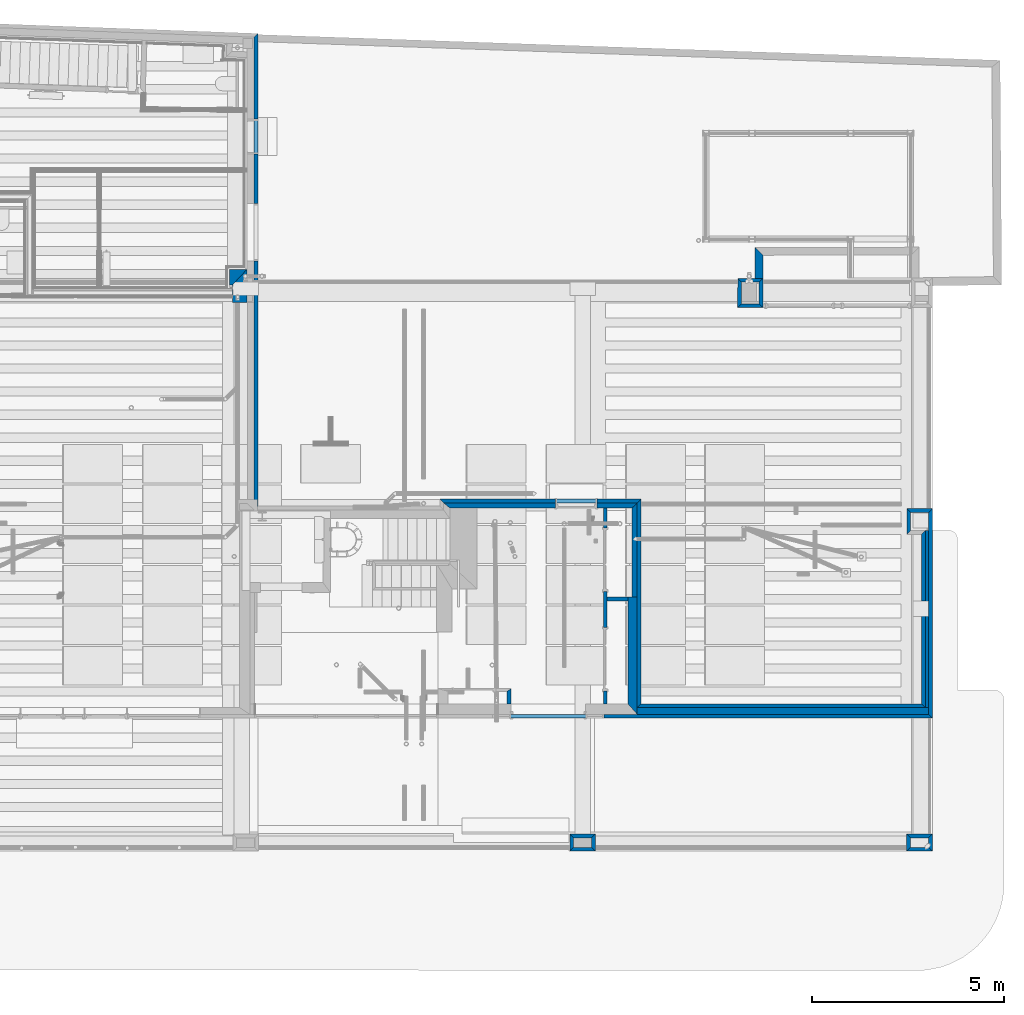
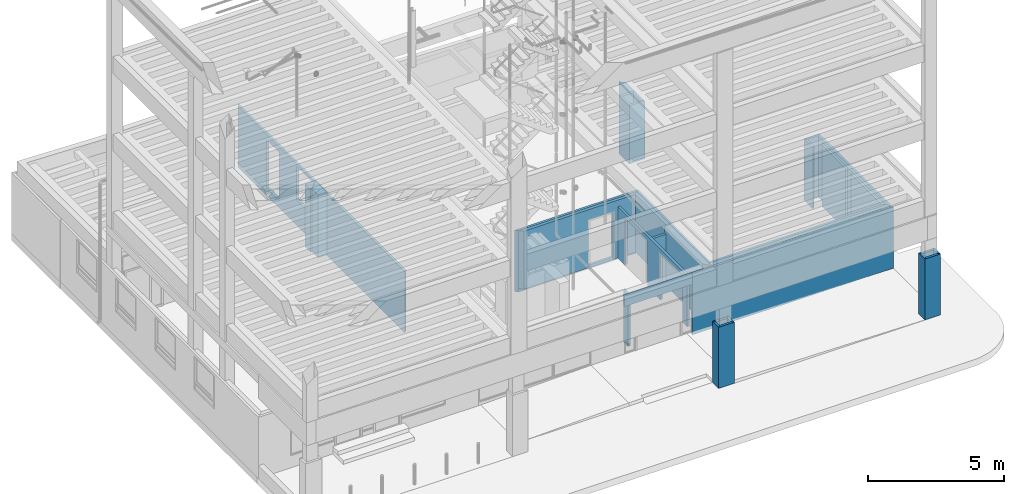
# One storey, part 7 of 108: 34 walls, 6 openings.
"""IFC2X3 building model written with IfcOpenShell, lengths in metres."""

from ifc_helpers import new_model, entity, si_unit, converted_unit, derived_unit, money_unit, direction, frame, frame_2d, origin_with_axes, place, context, subcontext, project, spatial, polyline, rectangle, outline, extrude, faceted_brep, material, layer, layer_set, layer_usage, type_object, element, save


model = new_model("IFC2X3")

# Units and contexts
model_context = context("Model", 3, precision=1e-05, world=origin_with_axes(), true_north=direction((0.0, 1.0)))
body_context = subcontext(model_context, "Body", "Model", "MODEL_VIEW", scale=1.0)
ifc_project = project(units=[si_unit("LENGTHUNIT", "METRE"), si_unit("AREAUNIT", "SQUARE_METRE"), si_unit("VOLUMEUNIT", "CUBIC_METRE"), si_unit("ABSORBEDDOSEUNIT", "GRAY"), si_unit("AMOUNTOFSUBSTANCEUNIT", "MOLE"), si_unit("DOSEEQUIVALENTUNIT", "SIEVERT"), si_unit("ELECTRICCAPACITANCEUNIT", "FARAD"), si_unit("ELECTRICCHARGEUNIT", "COULOMB"), si_unit("ELECTRICCONDUCTANCEUNIT", "SIEMENS"), si_unit("ELECTRICCURRENTUNIT", "AMPERE"), si_unit("ELECTRICRESISTANCEUNIT", "OHM"), si_unit("ELECTRICVOLTAGEUNIT", "VOLT"), si_unit("ENERGYUNIT", "JOULE"), si_unit("FORCEUNIT", "NEWTON"), si_unit("FREQUENCYUNIT", "HERTZ"), si_unit("ILLUMINANCEUNIT", "LUX"), si_unit("INDUCTANCEUNIT", "HENRY"), si_unit("LUMINOUSFLUXUNIT", "LUMEN"), si_unit("LUMINOUSINTENSITYUNIT", "CANDELA"), si_unit("MAGNETICFLUXDENSITYUNIT", "TESLA"), si_unit("MAGNETICFLUXUNIT", "WEBER"), si_unit("MASSUNIT", "GRAM"), converted_unit("PLANEANGLEUNIT", "degree", entity("IfcReal", 0.0174532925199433), si_unit("PLANEANGLEUNIT", "RADIAN"), dimensions=[0, 0, 0, 0, 0, 0, 0]), si_unit("POWERUNIT", "WATT"), si_unit("PRESSUREUNIT", "PASCAL"), si_unit("RADIOACTIVITYUNIT", "BECQUEREL"), si_unit("SOLIDANGLEUNIT", "STERADIAN"), si_unit("THERMODYNAMICTEMPERATUREUNIT", "KELVIN"), si_unit("TIMEUNIT", "SECOND"), derived_unit("ACCELERATIONUNIT", [(si_unit("LENGTHUNIT", "METRE"), 1), (si_unit("TIMEUNIT", "SECOND"), -2)]), derived_unit("ANGULARVELOCITYUNIT", [(converted_unit("PLANEANGLEUNIT", "degree", entity("IfcReal", 0.0174532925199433), si_unit("PLANEANGLEUNIT", "RADIAN"), dimensions=[0, 0, 0, 0, 0, 0, 0]), 1), (si_unit("TIMEUNIT", "SECOND"), -1)]), derived_unit("CURVATUREUNIT", [(converted_unit("PLANEANGLEUNIT", "degree", entity("IfcReal", 0.0174532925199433), si_unit("PLANEANGLEUNIT", "RADIAN"), dimensions=[0, 0, 0, 0, 0, 0, 0]), 1), (si_unit("LENGTHUNIT", "METRE"), -1)]), derived_unit("DYNAMICVISCOSITYUNIT", [(si_unit("PRESSUREUNIT", "PASCAL"), 1), (si_unit("TIMEUNIT", "SECOND"), 1)]), derived_unit("HEATFLUXDENSITYUNIT", [(si_unit("POWERUNIT", "WATT"), 1), (si_unit("LENGTHUNIT", "METRE"), -2)]), derived_unit("HEATINGVALUEUNIT", [(si_unit("ENERGYUNIT", "JOULE"), 1), (si_unit("MASSUNIT", "GRAM"), -1)]), derived_unit("INTEGERCOUNTRATEUNIT", [(si_unit("TIMEUNIT", "SECOND"), -1)]), derived_unit("IONCONCENTRATIONUNIT", [(si_unit("MASSUNIT", "GRAM"), 1), (si_unit("VOLUMEUNIT", "CUBIC_METRE"), -1)]), derived_unit("ISOTHERMALMOISTURECAPACITYUNIT", [(si_unit("VOLUMEUNIT", "CUBIC_METRE"), 1), (si_unit("MASSUNIT", "GRAM"), -1)]), derived_unit("KINEMATICVISCOSITYUNIT", [(si_unit("AREAUNIT", "SQUARE_METRE"), 1), (si_unit("TIMEUNIT", "SECOND"), -1)]), derived_unit("LINEARFORCEUNIT", [(si_unit("FORCEUNIT", "NEWTON"), 1), (si_unit("LENGTHUNIT", "METRE"), -1)]), derived_unit("LINEARMOMENTUNIT", [(si_unit("FORCEUNIT", "NEWTON"), 1), (si_unit("LENGTHUNIT", "METRE"), -1)]), derived_unit("LINEARSTIFFNESSUNIT", [(si_unit("FORCEUNIT", "NEWTON"), 1), (si_unit("LENGTHUNIT", "METRE"), -1)]), derived_unit("LINEARVELOCITYUNIT", [(si_unit("LENGTHUNIT", "METRE"), 1), (si_unit("TIMEUNIT", "SECOND"), -1)]), derived_unit("LUMINOUSINTENSITYDISTRIBUTIONUNIT", [(si_unit("LUMINOUSINTENSITYUNIT", "CANDELA"), 1), (si_unit("LUMINOUSFLUXUNIT", "LUMEN"), -1)]), derived_unit("MASSDENSITYUNIT", [(si_unit("MASSUNIT", "GRAM"), 1), (si_unit("VOLUMEUNIT", "CUBIC_METRE"), -1)]), derived_unit("MASSFLOWRATEUNIT", [(si_unit("MASSUNIT", "GRAM"), 1), (si_unit("TIMEUNIT", "SECOND"), -1)]), derived_unit("MASSPERLENGTHUNIT", [(si_unit("MASSUNIT", "GRAM"), 1), (si_unit("LENGTHUNIT", "METRE"), -1)]), derived_unit("MODULUSOFELASTICITYUNIT", [(si_unit("FORCEUNIT", "NEWTON"), 1), (si_unit("AREAUNIT", "SQUARE_METRE"), -1)]), derived_unit("MODULUSOFLINEARSUBGRADEREACTIONUNIT", [(si_unit("FORCEUNIT", "NEWTON"), 1), (si_unit("LENGTHUNIT", "METRE"), -2)]), derived_unit("MODULUSOFROTATIONALSUBGRADEREACTIONUNIT", [(si_unit("FORCEUNIT", "NEWTON"), 1), (si_unit("LENGTHUNIT", "METRE"), 1)]), derived_unit("MODULUSOFSUBGRADEREACTIONUNIT", [(si_unit("FORCEUNIT", "NEWTON"), 1), (si_unit("VOLUMEUNIT", "CUBIC_METRE"), -1)]), derived_unit("MOISTUREDIFFUSIVITYUNIT", [(si_unit("VOLUMEUNIT", "CUBIC_METRE"), 1), (si_unit("TIMEUNIT", "SECOND"), -1)]), derived_unit("MOLECULARWEIGHTUNIT", [(si_unit("MASSUNIT", "GRAM"), 1), (si_unit("AMOUNTOFSUBSTANCEUNIT", "MOLE"), -1)]), derived_unit("PLANARFORCEUNIT", [(si_unit("FORCEUNIT", "NEWTON"), 1), (si_unit("LENGTHUNIT", "METRE"), -2)]), derived_unit("ROTATIONALFREQUENCYUNIT", [(si_unit("TIMEUNIT", "SECOND"), -1)]), derived_unit("ROTATIONALMASSUNIT", [(si_unit("MASSUNIT", "GRAM"), 1), (si_unit("LENGTHUNIT", "METRE"), 2)]), derived_unit("ROTATIONALSTIFFNESSUNIT", [(si_unit("FORCEUNIT", "NEWTON"), 1), (si_unit("LENGTHUNIT", "METRE"), 1), (converted_unit("PLANEANGLEUNIT", "degree", entity("IfcReal", 0.0174532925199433), si_unit("PLANEANGLEUNIT", "RADIAN"), dimensions=[0, 0, 0, 0, 0, 0, 0]), -1)]), derived_unit("SECTIONAREAINTEGRALUNIT", [(si_unit("LENGTHUNIT", "METRE"), 5)]), derived_unit("SECTIONMODULUSUNIT", [(si_unit("LENGTHUNIT", "METRE"), 3)]), derived_unit("SHEARMODULUSUNIT", [(si_unit("FORCEUNIT", "NEWTON"), 1), (si_unit("AREAUNIT", "SQUARE_METRE"), -1)]), derived_unit("SOUNDPOWERUNIT", [(si_unit("ENERGYUNIT", "JOULE"), 1), (si_unit("TIMEUNIT", "SECOND"), -1)]), derived_unit("SPECIFICHEATCAPACITYUNIT", [(si_unit("FORCEUNIT", "NEWTON"), 1), (si_unit("MASSUNIT", "GRAM"), -1), (si_unit("THERMODYNAMICTEMPERATUREUNIT", "KELVIN"), -1)]), derived_unit("TEMPERATUREGRADIENTUNIT", [(si_unit("THERMODYNAMICTEMPERATUREUNIT", "KELVIN"), 1), (si_unit("LENGTHUNIT", "METRE"), -1)]), derived_unit("THERMALADMITTANCEUNIT", [(si_unit("POWERUNIT", "WATT"), 1), (si_unit("AREAUNIT", "SQUARE_METRE"), -1), (si_unit("THERMODYNAMICTEMPERATUREUNIT", "KELVIN"), -1)]), derived_unit("THERMALCONDUCTANCEUNIT", [(si_unit("POWERUNIT", "WATT"), 1), (si_unit("LENGTHUNIT", "METRE"), -1), (si_unit("THERMODYNAMICTEMPERATUREUNIT", "KELVIN"), -1)]), derived_unit("THERMALEXPANSIONCOEFFICIENTUNIT", [(si_unit("THERMODYNAMICTEMPERATUREUNIT", "KELVIN"), -1)]), derived_unit("THERMALRESISTANCEUNIT", [(si_unit("AREAUNIT", "SQUARE_METRE"), 1), (si_unit("POWERUNIT", "WATT"), -1)]), derived_unit("THERMALTRANSMITTANCEUNIT", [(si_unit("POWERUNIT", "WATT"), 1), (si_unit("AREAUNIT", "SQUARE_METRE"), -1), (si_unit("THERMODYNAMICTEMPERATUREUNIT", "KELVIN"), -1)]), derived_unit("TORQUEUNIT", [(si_unit("FORCEUNIT", "NEWTON"), 1), (si_unit("LENGTHUNIT", "METRE"), 1)]), derived_unit("VAPORPERMEABILITYUNIT", [(si_unit("MASSUNIT", "GRAM"), 1), (si_unit("TIMEUNIT", "SECOND"), -1)]), derived_unit("VOLUMETRICFLOWRATEUNIT", [(si_unit("VOLUMEUNIT", "CUBIC_METRE"), 1), (si_unit("TIMEUNIT", "SECOND"), -1)]), derived_unit("WARPINGCONSTANTUNIT", [(si_unit("LENGTHUNIT", "METRE"), 6)]), derived_unit("WARPINGMOMENTUNIT", [(si_unit("FORCEUNIT", "NEWTON"), 1), (si_unit("LENGTHUNIT", "METRE"), 2)]), money_unit("GBP")], contexts=[model_context])

# Site, building, storey
site_placement = place(None, origin_with_axes())
site = spatial("IfcSite", under=ifc_project, at=site_placement, Name="Site", CompositionType="ELEMENT")
building_placement = place(site_placement, origin_with_axes())
building = spatial("IfcBuilding", under=site, at=building_placement, Name="Building01", CompositionType="ELEMENT")
storey_placement = place(building_placement, origin_with_axes())
storey = spatial("IfcBuildingStorey", under=building, at=storey_placement, Name="GF", CompositionType="ELEMENT", Elevation=0.0)

# Walls
ifc_material_1 = material(Name="A_BSUK_WallsExternal_Brick")
ifc_layer_1 = layer(ifc_material_1, 0.1, ventilated=False)
ifc_layer_set_1 = layer_set([ifc_layer_1])
ifc_layer_usage_1 = layer_usage(ifc_layer_set_1, "AXIS2", "POSITIVE", 0.0)
wall_type_1 = type_object("IfcWallType", Name="A-Walls-ExternalBrick", PredefinedType="NOTDEFINED")
wall_1_placement = place(storey_placement, frame((17.55, 0.449009, -0.145), z_axis=(0.0, 0.0, 1.0), x_axis=(0.0, -1.0, 0.0)))
element("IfcWallStandardCase", 1, at=wall_1_placement, inside=storey, type_object=wall_type_1, material=ifc_layer_usage_1, Name="A-Walls-ExternalBrick", ObjectType="A-Walls-ExternalBrick", context=body_context, shape_type="SweptSolid", body=[
    extrude(outline(polyline([(0.349667, 0.1), (0.1, 0.1), (0.0, 0.0), (0.449667, 0.0), (0.349667, 0.1)])), origin_with_axes(), (0.0, 0.0, 1.0), 2.745),
])
wall_2_placement = place(storey_placement, frame((17.55, -0.000659, -0.145), z_axis=(0.0, 0.0, 1.0), x_axis=(1.0, 0.0, 0.0)))
element("IfcWallStandardCase", 2, at=wall_2_placement, inside=storey, type_object=wall_type_1, material=ifc_layer_usage_1, Name="A-Walls-ExternalBrick", ObjectType="A-Walls-ExternalBrick", context=body_context, shape_type="SweptSolid", body=[
    extrude(outline(polyline([(0.57, 0.1), (0.1, 0.1), (0.0, 0.0), (0.67, 0.0), (0.57, 0.1)])), origin_with_axes(), (0.0, 0.0, 1.0), 2.745),
])
wall_3_placement = place(storey_placement, frame((18.22, -0.000659, -0.145), z_axis=(0.0, 0.0, 1.0), x_axis=(0.0, 1.0, 0.0)))
element("IfcWallStandardCase", 3, at=wall_3_placement, inside=storey, type_object=wall_type_1, material=ifc_layer_usage_1, Name="A-Walls-ExternalBrick", ObjectType="A-Walls-ExternalBrick", context=body_context, shape_type="SweptSolid", body=[
    extrude(outline(polyline([(0.349667, 0.1), (0.1, 0.1), (0.0, 0.0), (0.449667, 0.0), (0.349667, 0.1)])), origin_with_axes(), (0.0, 0.0, 1.0), 2.745),
])
wall_4_placement = place(storey_placement, frame((18.22, 0.449009, -0.145), z_axis=(0.0, 0.0, 1.0), x_axis=(-1.0, 0.0, 0.0)))
element("IfcWallStandardCase", 4, at=wall_4_placement, inside=storey, type_object=wall_type_1, material=ifc_layer_usage_1, Name="A-Walls-ExternalBrick", ObjectType="A-Walls-ExternalBrick", context=body_context, shape_type="SweptSolid", body=[
    extrude(outline(polyline([(0.57, 0.1), (0.1, 0.1), (0.0, 0.0), (0.67, 0.0), (0.57, 0.1)])), origin_with_axes(), (0.0, 0.0, 1.0), 2.745),
])
wall_5_placement = place(storey_placement, frame((26.31, -0.000988, -0.145), z_axis=(0.0, 0.0, 1.0), x_axis=(1.0, 0.0, 0.0)))
element("IfcWallStandardCase", 5, at=wall_5_placement, inside=storey, type_object=wall_type_1, material=ifc_layer_usage_1, Name="A-Walls-ExternalBrick", ObjectType="A-Walls-ExternalBrick", context=body_context, shape_type="SweptSolid", body=[
    extrude(outline(polyline([(0.571155, 0.1), (0.1, 0.1), (0.0, 0.0), (0.671155, 0.0), (0.571155, 0.1)])), origin_with_axes(), (0.0, 0.0, 1.0), 2.745),
])
wall_6_placement = place(storey_placement, frame((26.981155, -0.000988, -0.145), z_axis=(0.0, 0.0, 1.0), x_axis=(0.0, 1.0, 0.0)))
element("IfcWallStandardCase", 6, at=wall_6_placement, inside=storey, type_object=wall_type_1, material=ifc_layer_usage_1, Name="A-Walls-ExternalBrick", ObjectType="A-Walls-ExternalBrick", context=body_context, shape_type="SweptSolid", body=[
    extrude(outline(polyline([(0.349668, 0.1), (0.1, 0.1), (0.0, 0.0), (0.449668, 0.0), (0.349668, 0.1)])), origin_with_axes(), (0.0, 0.0, 1.0), 2.745),
])
wall_7_placement = place(storey_placement, frame((26.981155, 0.44868, -0.145), z_axis=(0.0, 0.0, 1.0), x_axis=(-1.0, 0.0, 0.0)))
element("IfcWallStandardCase", 7, at=wall_7_placement, inside=storey, type_object=wall_type_1, material=ifc_layer_usage_1, Name="A-Walls-ExternalBrick", ObjectType="A-Walls-ExternalBrick", context=body_context, shape_type="SweptSolid", body=[
    extrude(outline(polyline([(0.571155, 0.1), (0.1, 0.1), (0.0, 0.0), (0.671155, 0.0), (0.571155, 0.1)])), origin_with_axes(), (0.0, 0.0, 1.0), 2.745),
])
wall_8_placement = place(storey_placement, frame((26.31, 0.44868, -0.145), z_axis=(0.0, 0.0, 1.0), x_axis=(0.0, -1.0, 0.0)))
element("IfcWallStandardCase", 8, at=wall_8_placement, inside=storey, type_object=wall_type_1, material=ifc_layer_usage_1, Name="A-Walls-ExternalBrick", ObjectType="A-Walls-ExternalBrick", context=body_context, shape_type="SweptSolid", body=[
    extrude(outline(polyline([(0.349668, 0.1), (0.1, 0.1), (0.0, 0.0), (0.449668, 0.0), (0.349668, 0.1)])), origin_with_axes(), (0.0, 0.0, 1.0), 2.745),
])
wall_9_placement = place(storey_placement, frame((26.981285, 3.458503, -0.16), z_axis=(0.0, 0.0, 1.0), x_axis=(0.0, 1.0, 0.0)))
element("IfcWallStandardCase", 9, at=wall_9_placement, inside=storey, type_object=wall_type_1, material=ifc_layer_usage_1, Name="A-Walls-ExternalBrick", ObjectType="A-Walls-ExternalBrick", context=body_context, shape_type="SweptSolid", body=[
    extrude(outline(polyline([(5.351028, 0.1), (0.100004, 0.1), (0.0, 0.0), (5.451028, 0.0), (5.351028, 0.1)])), origin_with_axes(), (0.0, 0.0, 1.0), 2.76),
])
wall_10_placement = place(storey_placement, frame((26.981285, 8.909531, -0.16), z_axis=(0.0, 0.0, 1.0), x_axis=(-1.0, 0.0, 0.0)))
element("IfcWallStandardCase", 10, at=wall_10_placement, inside=storey, type_object=wall_type_1, material=ifc_layer_usage_1, Name="A-Walls-ExternalBrick", ObjectType="A-Walls-ExternalBrick", context=body_context, shape_type="SweptSolid", body=[
    extrude(outline(polyline([(0.567106, 0.1), (0.1, 0.1), (0.0, 0.0), (0.667106, 0.0), (0.567106, 0.1)])), origin_with_axes(), (0.0, 0.0, 1.0), 2.76),
])
wall_11_placement = place(storey_placement, frame((26.314179, 8.909531, -0.16), z_axis=(0.0, 0.0, 1.0), x_axis=(0.0, -1.0, 0.0)))
element("IfcWallStandardCase", 11, at=wall_11_placement, inside=storey, type_object=wall_type_1, material=ifc_layer_usage_1, Name="A-Walls-ExternalBrick", ObjectType="A-Walls-ExternalBrick", context=body_context, shape_type="SweptSolid", body=[
    extrude(outline(polyline([(0.571773, 0.1), (0.1, 0.1), (0.0, 0.0), (0.671773, 0.0), (0.571773, 0.1)])), origin_with_axes(), (0.0, 0.0, 1.0), 2.76),
])

# Wall, openings
wall_12_placement = place(storey_placement, frame((9.443038, 8.971523, -0.16), z_axis=(0.0, 0.0, 1.0), x_axis=(3.756e-05, 1.0, 0.0)))
wall_12 = element("IfcWallStandardCase", 12, at=wall_12_placement, inside=storey, type_object=wall_type_1, material=ifc_layer_usage_1, Name="A-Walls-ExternalBrick", ObjectType="A-Walls-ExternalBrick", context=body_context, shape_type="SweptSolid", body=[
    extrude(outline(polyline([(12.194522, 0.1), (-0.1, 0.1), (0.0, 0.0), (12.290885, 0.0), (12.194522, 0.1)])), origin_with_axes(), (0.0, 0.0, 1.0), 2.76),
])
opening_1_placement = place(wall_12_placement, frame((9.152581, 0.0, 0.358), z_axis=(0.0, 0.0, 1.0), x_axis=(1.0, 0.0, 0.0)))
element("IfcOpeningElement", 13, at=opening_1_placement, cuts=wall_12, Name="Opening", ObjectType="Opening", context=body_context, shape_type="Brep", body=[
    faceted_brep([(0.0, 0.1, 0.0), (0.0, 0.1, 2.142), (0.909, 0.1, 2.142), (0.909, 0.1, 0.0), (4e-06, 0.0, 2.142), (4e-06, 0.0, 0.0), (0.909004, 0.0, 2.142), (0.909004, 0.0, 0.0)], [[[0, 1, 2, 3]], [[4, 1, 0, 5]], [[6, 2, 1, 4]], [[7, 3, 2, 6]], [[5, 0, 3, 7]], [[4, 5, 7, 6]]]),
])
opening_2_placement = place(wall_12_placement, frame((6.373286, 0.0, 1.158), z_axis=(0.0, 0.0, 1.0), x_axis=(1.0, 0.0, 0.0)))
element("IfcOpeningElement", 14, at=opening_2_placement, cuts=wall_12, Name="Opening", ObjectType="Opening", context=body_context, shape_type="Brep", body=[
    faceted_brep([(0.0, 0.1, 1.5), (1.5, 0.1, 1.5), (1.5, 0.1, 0.0), (0.0, 0.1, 0.0), (1.500004, 0.0, 1.5), (4e-06, 0.0, 1.5), (1.500004, 0.0, 0.0), (4e-06, 0.0, 0.0)], [[[0, 1, 2, 3]], [[4, 1, 0, 5]], [[6, 2, 1, 4]], [[5, 0, 3, 7]], [[4, 5, 7, 6]], [[7, 3, 2, 6]]]),
])

# Walls
wall_13_placement = place(storey_placement, frame((22.571797, 14.897172, -0.16), z_axis=(0.0, 0.0, 1.0), x_axis=(-1.0, 0.0, 0.0)))
element("IfcWallStandardCase", 15, at=wall_13_placement, inside=storey, type_object=wall_type_1, material=ifc_layer_usage_1, Name="A-Walls-ExternalBrick", ObjectType="A-Walls-ExternalBrick", context=body_context, shape_type="SweptSolid", body=[
    extrude(outline(polyline([(0.553641, 0.1), (0.0993, 0.1), (0.0, 0.0), (0.653638, 0.0), (0.553641, 0.1)])), origin_with_axes(), (0.0, 0.0, 1.0), 2.6),
])
wall_14_placement = place(storey_placement, frame((21.91816, 14.897172, -0.16), z_axis=(0.0, 0.0, 1.0), x_axis=(-3.756e-05, -1.0, 0.0)))
element("IfcWallStandardCase", 16, at=wall_14_placement, inside=storey, type_object=wall_type_1, material=ifc_layer_usage_1, Name="A-Walls-ExternalBrick", ObjectType="A-Walls-ExternalBrick", context=body_context, shape_type="SweptSolid", body=[
    extrude(outline(polyline([(0.662872, 0.1), (0.099996, 0.1), (0.0, 0.0), (0.762876, 0.0), (0.662872, 0.1)])), origin_with_axes(), (0.0, 0.0, 1.0), 2.6),
])
wall_15_placement = place(storey_placement, frame((21.918131, 14.134296, -0.16), z_axis=(0.0, 0.0, 1.0), x_axis=(1.0, 0.0, 0.0)))
element("IfcWallStandardCase", 17, at=wall_15_placement, inside=storey, type_object=wall_type_1, material=ifc_layer_usage_1, Name="A-Walls-ExternalBrick", ObjectType="A-Walls-ExternalBrick", context=body_context, shape_type="SweptSolid", body=[
    extrude(outline(polyline([(0.558318, 0.1), (0.100004, 0.1), (0.0, 0.0), (0.659023, 0.0), (0.558318, 0.1)])), origin_with_axes(), (0.0, 0.0, 1.0), 2.6),
])
wall_16_placement = place(storey_placement, frame((22.577154, 14.134296, -0.16), z_axis=(0.0, 0.0, 1.0), x_axis=(-0.00702115, 0.99997535, 0.0)))
element("IfcWallStandardCase", 18, at=wall_16_placement, inside=storey, type_object=wall_type_1, material=ifc_layer_usage_1, Name="A-Walls-ExternalBrick", ObjectType="A-Walls-ExternalBrick", context=body_context, shape_type="SweptSolid", body=[
    extrude(outline(polyline([(0.663594, 0.1), (0.100705, 0.1), (0.0, 0.0), (0.762895, 0.0), (0.663594, 0.1)])), origin_with_axes(), (0.0, 0.0, 1.0), 2.6),
])
ifc_layer_2 = layer(ifc_material_1, 0.2, ventilated=False)
ifc_layer_set_2 = layer_set([ifc_layer_2])
ifc_layer_usage_2 = layer_usage(ifc_layer_set_2, "AXIS2", "POSITIVE", 0.0)
wall_17_placement = place(storey_placement, frame((22.571797, 14.897172, -0.16), z_axis=(0.0, 0.0, 1.0), x_axis=(0.0, 1.0, 0.0)))
element("IfcWallStandardCase", 19, at=wall_17_placement, inside=storey, type_object=wall_type_1, material=ifc_layer_usage_2, Name="A-Walls-ExternalBrick", ObjectType="A-Walls-ExternalBrick", context=body_context, shape_type="SweptSolid", body=[
    extrude(outline(polyline([(0.797851, 0.2), (0.0, 0.2), (0.0, 0.0), (0.598323, 0.0), (0.797851, 0.2)])), origin_with_axes(), (0.0, 0.0, 1.0), 2.6),
])
wall_18_placement = place(storey_placement, frame((18.441275, 3.458824, -0.145), z_axis=(0.0, 0.0, 1.0), x_axis=(1.0, -3.756e-05, 0.0)))
element("IfcWallStandardCase", 20, at=wall_18_placement, inside=storey, type_object=wall_type_1, material=ifc_layer_usage_1, Name="A-Walls-ExternalBrick", ObjectType="A-Walls-ExternalBrick", context=body_context, shape_type="SweptSolid", body=[
    extrude(outline(polyline([(8.440006, 0.1), (0.0, 0.1), (0.0, 0.0), (8.54001, 0.0), (8.440006, 0.1)])), origin_with_axes(), (0.0, 0.0, 1.0), 2.745),
])
wall_19_placement = place(storey_placement, frame((15.545166, 3.458932, 2.127), z_axis=(0.0, 0.0, 1.0), x_axis=(1.0, -3.756e-05, 0.0)))
element("IfcWallStandardCase", 21, at=wall_19_placement, inside=storey, type_object=wall_type_1, material=ifc_layer_usage_1, Name="A-Walls-ExternalBrick", ObjectType="A-Walls-ExternalBrick", context=body_context, shape_type="SweptSolid", body=[
    extrude(rectangle(XDim=2.896109, YDim=0.1, at=frame_2d((1.448055, 0.05), x_axis=(-1.0, 0.0))), origin_with_axes(), (0.0, 0.0, 1.0), 0.473),
])
ifc_material_2 = material(Name="A_BSUK_WallsExternal_Block")
ifc_layer_3 = layer(ifc_material_2, 0.1, ventilated=False)
ifc_layer_set_3 = layer_set([ifc_layer_3])
ifc_layer_usage_3 = layer_usage(ifc_layer_set_3, "AXIS2", "POSITIVE", 0.0)
wall_type_2 = type_object("IfcWallType", Name="A-Walls-ExternalBlock", PredefinedType="NOTDEFINED")
wall_20_placement = place(storey_placement, frame((26.695229, 8.237758, -0.16), z_axis=(0.0, 0.0, 1.0), x_axis=(-3.756e-05, -1.0, 0.0)))
element("IfcWallStandardCase", 22, at=wall_20_placement, inside=storey, type_object=wall_type_2, material=ifc_layer_usage_3, Name="A-Walls-ExternalBlock", ObjectType="A-Walls-ExternalBlock", context=body_context, shape_type="SweptSolid", body=[
    extrude(outline(polyline([(1.726014, 0.1), (-0.100004, 0.1), (0.0, 0.0), (1.726014, 0.0), (1.726014, 0.1)])), origin_with_axes(), (0.0, 0.0, 1.0), 2.76),
])
wall_21_placement = place(storey_placement, frame((26.695149, 6.112111, -0.16), z_axis=(0.0, 0.0, 1.0), x_axis=(-3.756e-05, -1.0, 0.0)))
element("IfcWallStandardCase", 23, at=wall_21_placement, inside=storey, type_object=wall_type_2, material=ifc_layer_usage_3, Name="A-Walls-ExternalBlock", ObjectType="A-Walls-ExternalBlock", context=body_context, shape_type="SweptSolid", body=[
    extrude(outline(polyline([(2.378533, 0.1), (0.0, 0.1), (0.0, 0.0), (2.278533, 0.0), (2.378533, 0.1)])), origin_with_axes(), (0.0, 0.0, 1.0), 2.76),
])
wall_22_placement = place(storey_placement, frame((26.695064, 3.833578, -0.16), z_axis=(0.0, 0.0, 1.0), x_axis=(-1.0, 3.756e-05, 0.0)))
element("IfcWallStandardCase", 24, at=wall_22_placement, inside=storey, type_object=wall_type_2, material=ifc_layer_usage_3, Name="A-Walls-ExternalBlock", ObjectType="A-Walls-ExternalBlock", context=body_context, shape_type="SweptSolid", body=[
    extrude(outline(polyline([(7.392288, 0.1), (-0.1, 0.1), (0.0, 0.0), (7.292288, 0.0), (7.392288, 0.1)])), origin_with_axes(), (0.0, 0.0, 1.0), 2.76),
])
wall_23_placement = place(storey_placement, frame((19.402776, 3.833852, -0.16), z_axis=(0.0, 0.0, 1.0), x_axis=(3.756e-05, 1.0, 0.0)))
element("IfcWallStandardCase", 25, at=wall_23_placement, inside=storey, type_object=wall_type_2, material=ifc_layer_usage_3, Name="A-Walls-ExternalBlock", ObjectType="A-Walls-ExternalBlock", context=body_context, shape_type="SweptSolid", body=[
    extrude(outline(polyline([(5.219002, 0.1), (-0.1, 0.1), (0.0, 0.0), (5.319002, 0.0), (5.219002, 0.1)])), origin_with_axes(), (0.0, 0.0, 1.0), 2.76),
])

# Wall, opening
wall_24_placement = place(storey_placement, frame((19.402975, 9.152854, -0.16), z_axis=(0.0, 0.0, 1.0), x_axis=(-1.0, 3.756e-05, 0.0)))
wall_24 = element("IfcWallStandardCase", 26, at=wall_24_placement, inside=storey, type_object=wall_type_2, material=ifc_layer_usage_3, Name="A-Walls-ExternalBlock", ObjectType="A-Walls-ExternalBlock", context=body_context, shape_type="SweptSolid", body=[
    extrude(outline(polyline([(5.130622, 0.1), (0.1, 0.1), (0.0, 0.0), (5.230622, 0.0), (5.130622, 0.1)])), origin_with_axes(), (0.0, 0.0, 1.0), 2.76),
])
opening_3_placement = place(wall_24_placement, frame((1.142406, 0.0, 0.16), z_axis=(0.0, 0.0, 1.0), x_axis=(1.0, 0.0, 0.0)))
element("IfcOpeningElement", 27, at=opening_3_placement, cuts=wall_24, Name="Opening", ObjectType="Opening", context=body_context, shape_type="Brep", body=[
    faceted_brep([(0.0, 0.1, 0.0), (0.0, 0.1, 2.142), (1.084, 0.1, 2.142), (1.084, 0.1, 0.0), (4e-06, 0.0, 2.142), (4e-06, 0.0, 0.0), (1.084004, 0.0, 2.142), (1.084004, 0.0, 0.0)], [[[0, 1, 2, 3]], [[4, 1, 0, 5]], [[6, 2, 1, 4]], [[7, 3, 2, 6]], [[5, 0, 3, 7]], [[4, 5, 7, 6]]]),
])

ifc_layer_4 = layer(ifc_material_2, 0.131, ventilated=False)
ifc_layer_set_4 = layer_set([ifc_layer_4])
ifc_layer_usage_4 = layer_usage(ifc_layer_set_4, "AXIS2", "POSITIVE", 0.0)
wall_25_placement = place(storey_placement, frame((14.43135, 8.922145, 0.0), z_axis=(0.0, 0.0, 1.0), x_axis=(1.0, 0.0, 0.0)))
wall_25 = element("IfcWallStandardCase", 28, at=wall_25_placement, inside=storey, type_object=wall_type_2, material=ifc_layer_usage_4, Name="A-Walls-ExternalBlock", ObjectType="A-Walls-ExternalBlock", context=body_context, shape_type="SweptSolid", body=[
    extrude(outline(polyline([(4.871617, 0.131), (-0.159, 0.131), (0.0, 0.0), (4.733617, 0.0), (4.871617, 0.131)])), origin_with_axes(), (0.0, 0.0, 1.0), 2.6),
])
opening_4_placement = place(wall_25_placement, frame((2.745216, 0.0, 0.0), z_axis=(0.0, 0.0, 1.0), x_axis=(1.0, 0.0, 0.0)))
element("IfcOpeningElement", 29, at=opening_4_placement, cuts=wall_25, Name="Opening", ObjectType="Opening", context=body_context, shape_type="SweptSolid", body=[
    extrude(rectangle(XDim=1.084, YDim=2.142, at=frame_2d((-0.542, 1.071), x_axis=(1.0, 0.0))), frame((0.0, 0.0, 0.0), z_axis=(0.0, 1.0, 0.0), x_axis=(-1.0, 0.0, 0.0)), (0.0, 0.0, 1.0), 0.131),
])

# Walls
ifc_layer_5 = layer(ifc_material_2, 0.138, ventilated=False)
ifc_layer_set_5 = layer_set([ifc_layer_5])
ifc_layer_usage_5 = layer_usage(ifc_layer_set_5, "AXIS2", "POSITIVE", 0.0)
wall_26_placement = place(storey_placement, frame((19.302967, 6.610938, 0.0), z_axis=(0.0, 0.0, 1.0), x_axis=(0.0, 1.0, 0.0)))
element("IfcWallStandardCase", 30, at=wall_26_placement, inside=storey, type_object=wall_type_2, material=ifc_layer_usage_5, Name="A-Walls-ExternalBlock", ObjectType="A-Walls-ExternalBlock", context=body_context, shape_type="SweptSolid", body=[
    extrude(outline(polyline([(2.311208, 0.138), (0.0, 0.138), (0.0, 0.0), (2.442208, 0.0), (2.311208, 0.138)])), origin_with_axes(), (0.0, 0.0, 1.0), 2.6),
])
ifc_layer_6 = layer(ifc_material_2, 0.233, ventilated=False)
ifc_layer_set_6 = layer_set([ifc_layer_6])
ifc_layer_usage_6 = layer_usage(ifc_layer_set_6, "AXIS2", "POSITIVE", 0.0)
wall_27_placement = place(storey_placement, frame((19.302772, 3.558962, 0.0), z_axis=(0.0, 0.0, 1.0), x_axis=(0.0, 1.0, 0.0)))
element("IfcWallStandardCase", 31, at=wall_27_placement, inside=storey, type_object=wall_type_2, material=ifc_layer_usage_6, Name="A-Walls-ExternalBlock", ObjectType="A-Walls-ExternalBlock", context=body_context, shape_type="SweptSolid", body=[
    extrude(outline(polyline([(0.265, 0.233), (0.0, 0.0), (3.051976, 0.0), (3.051976, 0.233), (0.265, 0.233)])), origin_with_axes(), (0.0, 0.0, 1.0), 2.6),
])
ifc_layer_7 = layer(ifc_material_2, 0.379, ventilated=False)
ifc_layer_set_7 = layer_set([ifc_layer_7])
ifc_layer_usage_7 = layer_usage(ifc_layer_set_7, "AXIS2", "POSITIVE", 0.0)
wall_28_placement = place(storey_placement, frame((9.154265, 14.271539, 0.148), z_axis=(0.0, 0.0, 1.0), x_axis=(0.0, 1.0, 0.0)))
element("IfcWallStandardCase", 32, at=wall_28_placement, inside=storey, type_object=wall_type_2, material=ifc_layer_usage_7, Name="A-Walls-ExternalBlock", ObjectType="A-Walls-ExternalBlock", context=body_context, shape_type="SweptSolid", body=[
    extrude(outline(polyline([(0.450353, 0.379), (0.0, 0.379), (0.0, 0.0), (0.856353, 0.0), (0.450353, 0.379)])), origin_with_axes(), (0.0, 0.0, 1.0), 2.812),
])
ifc_layer_8 = layer(ifc_material_2, 0.406, ventilated=False)
ifc_layer_set_8 = layer_set([ifc_layer_8])
ifc_layer_usage_8 = layer_usage(ifc_layer_set_8, "AXIS2", "POSITIVE", 0.0)
wall_29_placement = place(storey_placement, frame((8.705291, 14.721892, 0.148), z_axis=(0.0, 0.0, 1.0), x_axis=(1.0, 0.0, 0.0)))
element("IfcWallStandardCase", 33, at=wall_29_placement, inside=storey, type_object=wall_type_2, material=ifc_layer_usage_8, Name="A-Walls-ExternalBlock", ObjectType="A-Walls-ExternalBlock", context=body_context, shape_type="SweptSolid", body=[
    extrude(outline(polyline([(0.448974, 0.406), (0.0, 0.406), (0.0, 0.0), (0.069974, 0.0), (0.448974, 0.406)])), origin_with_axes(), (0.0, 0.0, 1.0), 2.812),
])
ifc_layer_9 = layer(ifc_material_2, 0.175, ventilated=False)
ifc_layer_set_9 = layer_set([ifc_layer_9])
ifc_layer_usage_9 = layer_usage(ifc_layer_set_9, "AXIS2", "POSITIVE", 0.0)
wall_30_placement = place(storey_placement, frame((19.302772, 3.558962, 0.0), z_axis=(0.0, 0.0, 1.0), x_axis=(1.0, 0.0, 0.0)))
element("IfcWallStandardCase", 34, at=wall_30_placement, inside=storey, type_object=wall_type_2, material=ifc_layer_usage_9, Name="A-Walls-ExternalBlock", ObjectType="A-Walls-ExternalBlock", context=body_context, shape_type="SweptSolid", body=[
    extrude(rectangle(XDim=7.578513, YDim=0.175, at=frame_2d((3.789257, 0.0875), x_axis=(-1.0, 0.0))), origin_with_axes(), (0.0, 0.0, 1.0), 2.6),
])
ifc_layer_10 = layer(ifc_material_2, 0.086, ventilated=False)
ifc_layer_set_10 = layer_set([ifc_layer_10])
ifc_layer_usage_10 = layer_usage(ifc_layer_set_10, "AXIS2", "POSITIVE", 0.0)
wall_31_placement = place(storey_placement, frame((26.881285, 3.733962, 0.0), z_axis=(0.0, 0.0, 1.0), x_axis=(0.0, 1.0, 0.0)))
element("IfcWallStandardCase", 35, at=wall_31_placement, inside=storey, type_object=wall_type_2, material=ifc_layer_usage_10, Name="A-Walls-ExternalBlock", ObjectType="A-Walls-ExternalBlock", context=body_context, shape_type="SweptSolid", body=[
    extrude(rectangle(XDim=4.603796, YDim=0.086, at=frame_2d((2.301898, 0.043), x_axis=(1.0, 0.0))), origin_with_axes(), (0.0, 0.0, 1.0), 2.6),
])
ifc_material_3 = material(Name="A_BSUK_WallsInternal")
ifc_layer_11 = layer(ifc_material_3, 0.107, ventilated=False)
ifc_layer_set_11 = layer_set([ifc_layer_11])
ifc_layer_usage_11 = layer_usage(ifc_layer_set_11, "AXIS2", "POSITIVE", 0.0)
wall_type_3 = type_object("IfcWallType", Name="A-Walls-Internal", PredefinedType="NOTDEFINED")
wall_32_placement = place(storey_placement, frame((16.022644, 3.823962, 0.0), z_axis=(0.0, 0.0, 1.0), x_axis=(0.0, 1.0, 0.0)))
element("IfcWallStandardCase", 36, at=wall_32_placement, inside=storey, type_object=wall_type_3, material=ifc_layer_usage_11, Name="A-Walls-Internal", ObjectType="A-Walls-Internal", context=body_context, shape_type="SweptSolid", body=[
    extrude(outline(polyline([(0.333508, 0.107), (0.0, 0.107), (0.0, 0.0), (0.403508, 0.0), (0.333508, 0.107)])), origin_with_axes(), (0.0, 0.0, 1.0), 2.3),
])

# Wall, openings
ifc_layer_12 = layer(ifc_material_3, 0.103, ventilated=False)
ifc_layer_set_12 = layer_set([ifc_layer_12])
ifc_layer_usage_12 = layer_usage(ifc_layer_set_12, "AXIS2", "POSITIVE", 0.0)
wall_33_placement = place(storey_placement, frame((18.421562, 8.922145, 0.0), z_axis=(0.0, 0.0, 1.0), x_axis=(0.0, -1.0, 0.0)))
wall_33 = element("IfcWallStandardCase", 37, at=wall_33_placement, inside=storey, type_object=wall_type_3, material=ifc_layer_usage_12, Name="A-Walls-Internal", ObjectType="A-Walls-Internal", context=body_context, shape_type="SweptSolid", body=[
    extrude(rectangle(XDim=5.098183, YDim=0.103, at=frame_2d((2.549092, 0.0515), x_axis=(-1.0, 0.0))), origin_with_axes(), (0.0, 0.0, 1.0), 2.3),
])
opening_5_placement = place(wall_33_placement, frame((0.515284, 0.0, 0.0), z_axis=(0.0, 0.0, 1.0), x_axis=(1.0, 0.0, 0.0)))
element("IfcOpeningElement", 38, at=opening_5_placement, cuts=wall_33, Name="Opening", ObjectType="Opening", context=body_context, shape_type="Brep", body=[
    faceted_brep([(0.0, 0.0, 2.1), (0.0, 0.0, 0.0), (1.649, 0.0, 0.0), (1.649, 0.0, 2.1), (4e-06, 0.103, 0.0), (4e-06, 0.103, 2.1), (1.649004, 0.103, 2.1), (1.649004, 0.103, 0.0)], [[[0, 1, 2, 3]], [[4, 5, 6, 7]], [[1, 4, 7, 2]], [[5, 0, 3, 6]], [[4, 1, 0, 5]], [[6, 3, 2, 7]]]),
])
opening_6_placement = place(wall_33_placement, frame((3.103568, 0.0, 0.0), z_axis=(0.0, 0.0, 1.0), x_axis=(1.0, 0.0, 0.0)))
element("IfcOpeningElement", 39, at=opening_6_placement, cuts=wall_33, Name="Opening", ObjectType="Opening", context=body_context, shape_type="Brep", body=[
    faceted_brep([(0.0, 0.0, 2.1), (0.0, 0.0, 0.0), (1.649, 0.0, 0.0), (1.649, 0.0, 2.1), (4e-06, 0.103, 0.0), (4e-06, 0.103, 2.1), (1.649004, 0.103, 2.1), (1.649004, 0.103, 0.0)], [[[0, 1, 2, 3]], [[4, 5, 6, 7]], [[1, 4, 7, 2]], [[5, 0, 3, 6]], [[4, 1, 0, 5]], [[6, 3, 2, 7]]]),
])

# Wall
wall_34_placement = place(storey_placement, frame((18.524562, 6.507607, 0.0), z_axis=(0.0, 0.0, 1.0), x_axis=(1.0, 0.0, 0.0)))
element("IfcWallStandardCase", 40, at=wall_34_placement, inside=storey, type_object=wall_type_3, material=ifc_layer_usage_12, Name="A-Walls-Internal", ObjectType="A-Walls-Internal", context=body_context, shape_type="SweptSolid", body=[
    extrude(rectangle(XDim=0.54521, YDim=0.103, at=frame_2d((0.272605, 0.0515), x_axis=(-1.0, 0.0))), origin_with_axes(), (0.0, 0.0, 1.0), 2.3),
])

save(model, "model.ifc")
